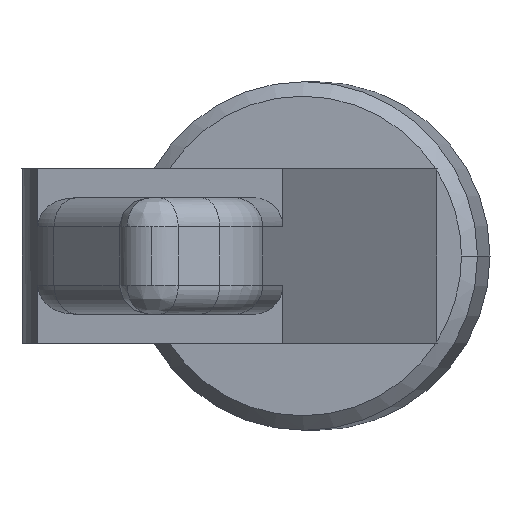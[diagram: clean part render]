
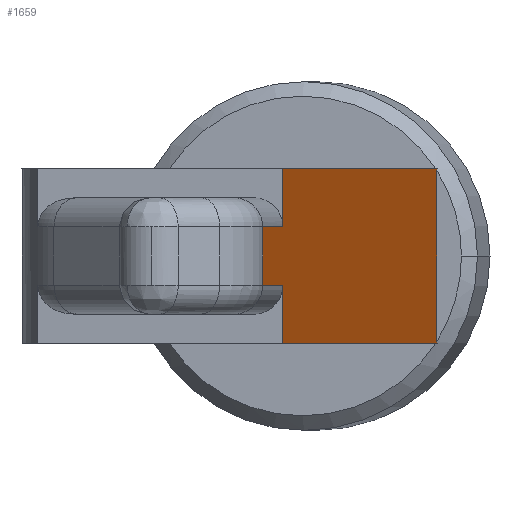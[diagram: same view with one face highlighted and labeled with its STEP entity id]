
A CAD part, front view. The second image highlights one B-rep face of the part: STEP entity #1659.
In plain terms, the highlighted planar face has unit normal (0.994, -0.108, 0).
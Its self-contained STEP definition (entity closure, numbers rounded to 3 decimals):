
#1601=AXIS2_PLACEMENT_3D('Plane Axis2P3D',#1598,#1599,#1600) ;
#501=CARTESIAN_POINT('Vertex',(-315.414,-960.029,32.801)) ;
#807=CARTESIAN_POINT('Vertex',(-314.72,-953.636,32.801)) ;
#810=CARTESIAN_POINT('Line Origine',(-312.803,-935.991,32.801)) ;
#831=CARTESIAN_POINT('Vertex',(-315.414,-960.029,30.801)) ;
#834=CARTESIAN_POINT('Line Origine',(-315.414,-960.029,34.801)) ;
#950=CARTESIAN_POINT('Vertex',(-314.72,-953.636,30.801)) ;
#953=CARTESIAN_POINT('Line Origine',(-313.794,-945.116,30.801)) ;
#1564=CARTESIAN_POINT('Vertex',(-314.72,-953.636,34.801)) ;
#1567=CARTESIAN_POINT('Line Origine',(-312.067,-929.221,34.801)) ;
#1571=CARTESIAN_POINT('Vertex',(-309.415,-904.806,34.801)) ;
#1598=CARTESIAN_POINT('Axis2P3D Location',(-313.794,-945.116,34.801)) ;
#1604=CARTESIAN_POINT('Control Point',(-309.415,-904.806,34.801)) ;
#1605=CARTESIAN_POINT('Control Point',(-309.416,-904.813,34.787)) ;
#1606=CARTESIAN_POINT('Control Point',(-309.417,-904.821,34.774)) ;
#1607=CARTESIAN_POINT('Control Point',(-309.417,-904.828,34.76)) ;
#1608=CARTESIAN_POINT('Control Point',(-309.418,-904.835,34.747)) ;
#1609=CARTESIAN_POINT('Control Point',(-309.419,-904.842,34.733)) ;
#1610=CARTESIAN_POINT('Vertex',(-309.419,-904.842,34.733)) ;
#1613=CARTESIAN_POINT('Line Origine',(-314.72,-953.636,33.801)) ;
#1618=CARTESIAN_POINT('Line Origine',(-314.72,-953.636,29.801)) ;
#1622=CARTESIAN_POINT('Vertex',(-314.72,-953.636,28.801)) ;
#1625=CARTESIAN_POINT('Line Origine',(-312.067,-929.221,28.801)) ;
#1629=CARTESIAN_POINT('Vertex',(-309.415,-904.806,28.801)) ;
#1633=CARTESIAN_POINT('Control Point',(-309.419,-904.842,28.868)) ;
#1634=CARTESIAN_POINT('Control Point',(-309.418,-904.835,28.855)) ;
#1635=CARTESIAN_POINT('Control Point',(-309.417,-904.828,28.841)) ;
#1636=CARTESIAN_POINT('Control Point',(-309.417,-904.821,28.828)) ;
#1637=CARTESIAN_POINT('Control Point',(-309.416,-904.813,28.814)) ;
#1638=CARTESIAN_POINT('Control Point',(-309.415,-904.806,28.801)) ;
#1639=CARTESIAN_POINT('Vertex',(-309.419,-904.842,28.868)) ;
#1642=CARTESIAN_POINT('Line Origine',(-309.419,-904.842,31.801)) ;
#811=DIRECTION('Vector Direction',(-0.108,-0.994,0.)) ;
#835=DIRECTION('Vector Direction',(0.,0.,-1.)) ;
#954=DIRECTION('Vector Direction',(0.108,0.994,0.)) ;
#1568=DIRECTION('Vector Direction',(0.108,0.994,0.)) ;
#1599=DIRECTION('Axis2P3D Direction',(-0.994,0.108,0.)) ;
#1600=DIRECTION('Axis2P3D XDirection',(0.108,0.994,0.)) ;
#1614=DIRECTION('Vector Direction',(0.,0.,-1.)) ;
#1619=DIRECTION('Vector Direction',(0.,0.,-1.)) ;
#1626=DIRECTION('Vector Direction',(0.108,0.994,0.)) ;
#1643=DIRECTION('Vector Direction',(0.,0.,1.)) ;
#812=VECTOR('Line Direction',#811,1.) ;
#836=VECTOR('Line Direction',#835,1.) ;
#955=VECTOR('Line Direction',#954,1.) ;
#1569=VECTOR('Line Direction',#1568,1.) ;
#1615=VECTOR('Line Direction',#1614,1.) ;
#1620=VECTOR('Line Direction',#1619,1.) ;
#1627=VECTOR('Line Direction',#1626,1.) ;
#1644=VECTOR('Line Direction',#1643,1.) ;
#1648=ORIENTED_EDGE('',*,*,#1612,.F.) ;
#1649=ORIENTED_EDGE('',*,*,#1573,.T.) ;
#1650=ORIENTED_EDGE('',*,*,#1617,.T.) ;
#1651=ORIENTED_EDGE('',*,*,#814,.T.) ;
#1652=ORIENTED_EDGE('',*,*,#838,.T.) ;
#1653=ORIENTED_EDGE('',*,*,#957,.T.) ;
#1654=ORIENTED_EDGE('',*,*,#1624,.T.) ;
#1655=ORIENTED_EDGE('',*,*,#1631,.F.) ;
#1656=ORIENTED_EDGE('',*,*,#1641,.F.) ;
#1657=ORIENTED_EDGE('',*,*,#1646,.T.) ;
#1659=ADVANCED_FACE('\X2\51E04F554F53\X0\.2',(#1658),#1602,.F.) ;
#1603=B_SPLINE_CURVE_WITH_KNOTS('',5,(#1604,#1605,#1606,#1607,#1608,#1609),.UNSPECIFIED.,.F.,.U.,(6,6),(0.,1.035),.UNSPECIFIED.) ;
#1632=B_SPLINE_CURVE_WITH_KNOTS('',5,(#1633,#1634,#1635,#1636,#1637,#1638),.UNSPECIFIED.,.F.,.U.,(6,6),(0.,1.035),.UNSPECIFIED.) ;
#814=EDGE_CURVE('',#808,#502,#813,.T.) ;
#838=EDGE_CURVE('',#502,#832,#837,.T.) ;
#957=EDGE_CURVE('',#832,#951,#956,.T.) ;
#1573=EDGE_CURVE('',#1572,#1565,#1570,.F.) ;
#1612=EDGE_CURVE('',#1572,#1611,#1603,.T.) ;
#1617=EDGE_CURVE('',#1565,#808,#1616,.T.) ;
#1624=EDGE_CURVE('',#951,#1623,#1621,.T.) ;
#1631=EDGE_CURVE('',#1630,#1623,#1628,.F.) ;
#1641=EDGE_CURVE('',#1640,#1630,#1632,.T.) ;
#1646=EDGE_CURVE('',#1640,#1611,#1645,.T.) ;
#1647=EDGE_LOOP('',(#1648,#1649,#1650,#1651,#1652,#1653,#1654,#1655,#1656,#1657)) ;
#1658=FACE_OUTER_BOUND('',#1647,.T.) ;
#813=LINE('Line',#810,#812) ;
#837=LINE('Line',#834,#836) ;
#956=LINE('Line',#953,#955) ;
#1570=LINE('Line',#1567,#1569) ;
#1616=LINE('Line',#1613,#1615) ;
#1621=LINE('Line',#1618,#1620) ;
#1628=LINE('Line',#1625,#1627) ;
#1645=LINE('Line',#1642,#1644) ;
#1602=PLANE('',#1601) ;
#502=VERTEX_POINT('',#501) ;
#808=VERTEX_POINT('',#807) ;
#832=VERTEX_POINT('',#831) ;
#951=VERTEX_POINT('',#950) ;
#1565=VERTEX_POINT('',#1564) ;
#1572=VERTEX_POINT('',#1571) ;
#1611=VERTEX_POINT('',#1610) ;
#1623=VERTEX_POINT('',#1622) ;
#1630=VERTEX_POINT('',#1629) ;
#1640=VERTEX_POINT('',#1639) ;
